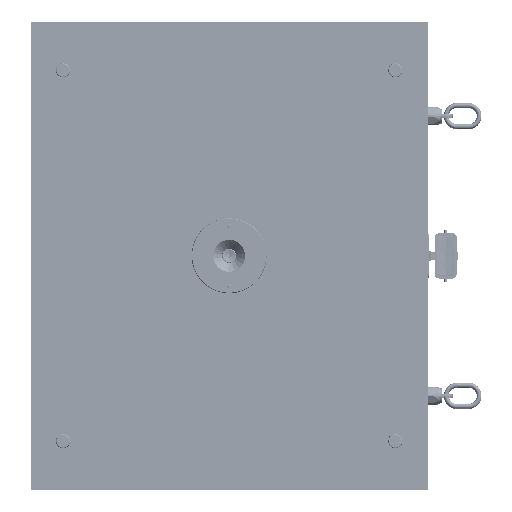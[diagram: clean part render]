
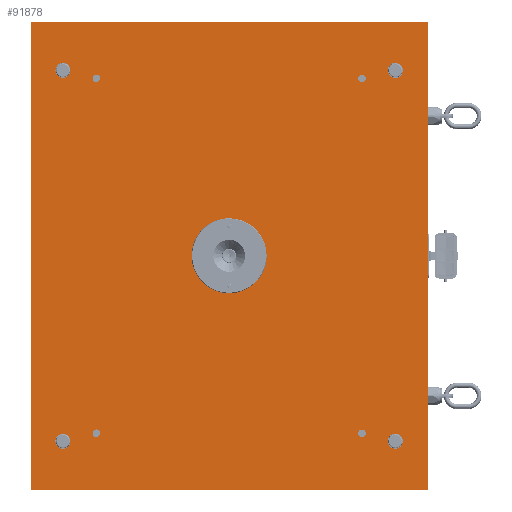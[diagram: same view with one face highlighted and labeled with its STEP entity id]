
A CAD part, top view. The second image highlights one B-rep face of the part: STEP entity #91878.
In plain terms, the highlighted planar face has unit normal (0, 0, 1).
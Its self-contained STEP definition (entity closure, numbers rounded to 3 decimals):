
#91652=CARTESIAN_POINT('Vertex',(354.,411.,7.)) ;
#91655=CARTESIAN_POINT('Axis2P3D Location',(354.,395.,7.)) ;
#91659=CARTESIAN_POINT('Vertex',(354.,379.,7.)) ;
#91679=CARTESIAN_POINT('Axis2P3D Location',(354.,395.,7.)) ;
#91691=CARTESIAN_POINT('Axis2P3D Location',(0.,0.,7.)) ;
#91696=CARTESIAN_POINT('Line Origine',(0.,498.,7.)) ;
#91700=CARTESIAN_POINT('Vertex',(423.,498.,7.)) ;
#91702=CARTESIAN_POINT('Vertex',(-423.,498.,7.)) ;
#91705=CARTESIAN_POINT('Line Origine',(-423.,0.,7.)) ;
#91709=CARTESIAN_POINT('Vertex',(-423.,-498.,7.)) ;
#91712=CARTESIAN_POINT('Line Origine',(0.,-498.,7.)) ;
#91716=CARTESIAN_POINT('Vertex',(423.,-498.,7.)) ;
#91719=CARTESIAN_POINT('Line Origine',(423.,0.,7.)) ;
#91730=CARTESIAN_POINT('Axis2P3D Location',(283.,-378.,7.)) ;
#91734=CARTESIAN_POINT('Vertex',(275.979,-374.165,7.)) ;
#91736=CARTESIAN_POINT('Vertex',(290.021,-381.835,7.)) ;
#91739=CARTESIAN_POINT('Axis2P3D Location',(283.,-378.,7.)) ;
#91748=CARTESIAN_POINT('Axis2P3D Location',(-283.,-378.,7.)) ;
#91752=CARTESIAN_POINT('Vertex',(-290.021,-374.165,7.)) ;
#91754=CARTESIAN_POINT('Vertex',(-275.979,-381.835,7.)) ;
#91757=CARTESIAN_POINT('Axis2P3D Location',(-283.,-378.,7.)) ;
#91766=CARTESIAN_POINT('Axis2P3D Location',(283.,378.,7.)) ;
#91770=CARTESIAN_POINT('Vertex',(275.979,381.835,7.)) ;
#91772=CARTESIAN_POINT('Vertex',(290.021,374.165,7.)) ;
#91775=CARTESIAN_POINT('Axis2P3D Location',(283.,378.,7.)) ;
#91784=CARTESIAN_POINT('Axis2P3D Location',(-283.,378.,7.)) ;
#91788=CARTESIAN_POINT('Vertex',(-290.021,381.835,7.)) ;
#91790=CARTESIAN_POINT('Vertex',(-275.979,374.165,7.)) ;
#91793=CARTESIAN_POINT('Axis2P3D Location',(-283.,378.,7.)) ;
#91802=CARTESIAN_POINT('Axis2P3D Location',(0.,0.,7.)) ;
#91806=CARTESIAN_POINT('Vertex',(0.,-80.,7.)) ;
#91808=CARTESIAN_POINT('Vertex',(0.,80.,7.)) ;
#91811=CARTESIAN_POINT('Axis2P3D Location',(0.,0.,7.)) ;
#91824=CARTESIAN_POINT('Axis2P3D Location',(-354.,395.,7.)) ;
#91828=CARTESIAN_POINT('Vertex',(-354.,379.,7.)) ;
#91830=CARTESIAN_POINT('Vertex',(-354.,411.,7.)) ;
#91833=CARTESIAN_POINT('Axis2P3D Location',(-354.,395.,7.)) ;
#91842=CARTESIAN_POINT('Axis2P3D Location',(-354.,-395.,7.)) ;
#91846=CARTESIAN_POINT('Vertex',(-354.,-411.,7.)) ;
#91848=CARTESIAN_POINT('Vertex',(-354.,-379.,7.)) ;
#91851=CARTESIAN_POINT('Axis2P3D Location',(-354.,-395.,7.)) ;
#91860=CARTESIAN_POINT('Axis2P3D Location',(354.,-395.,7.)) ;
#91864=CARTESIAN_POINT('Vertex',(354.,-411.,7.)) ;
#91866=CARTESIAN_POINT('Vertex',(354.,-379.,7.)) ;
#91869=CARTESIAN_POINT('Axis2P3D Location',(354.,-395.,7.)) ;
#91698=VECTOR('Line Direction',#91697,1.) ;
#91707=VECTOR('Line Direction',#91706,1.) ;
#91714=VECTOR('Line Direction',#91713,1.) ;
#91721=VECTOR('Line Direction',#91720,1.) ;
#91656=DIRECTION('Axis2P3D Direction',(0.,0.,1.)) ;
#91680=DIRECTION('Axis2P3D Direction',(0.,0.,1.)) ;
#91692=DIRECTION('Axis2P3D Direction',(0.,0.,1.)) ;
#91693=DIRECTION('Axis2P3D XDirection',(1.,0.,0.)) ;
#91697=DIRECTION('Vector Direction',(1.,0.,0.)) ;
#91706=DIRECTION('Vector Direction',(0.,1.,0.)) ;
#91713=DIRECTION('Vector Direction',(-1.,0.,0.)) ;
#91720=DIRECTION('Vector Direction',(0.,-1.,0.)) ;
#91731=DIRECTION('Axis2P3D Direction',(0.,0.,1.)) ;
#91740=DIRECTION('Axis2P3D Direction',(0.,0.,1.)) ;
#91749=DIRECTION('Axis2P3D Direction',(0.,0.,1.)) ;
#91758=DIRECTION('Axis2P3D Direction',(0.,0.,1.)) ;
#91767=DIRECTION('Axis2P3D Direction',(0.,0.,1.)) ;
#91776=DIRECTION('Axis2P3D Direction',(0.,0.,1.)) ;
#91785=DIRECTION('Axis2P3D Direction',(0.,0.,1.)) ;
#91794=DIRECTION('Axis2P3D Direction',(0.,0.,1.)) ;
#91803=DIRECTION('Axis2P3D Direction',(0.,0.,1.)) ;
#91812=DIRECTION('Axis2P3D Direction',(0.,0.,1.)) ;
#91825=DIRECTION('Axis2P3D Direction',(0.,0.,1.)) ;
#91834=DIRECTION('Axis2P3D Direction',(0.,0.,1.)) ;
#91843=DIRECTION('Axis2P3D Direction',(0.,0.,1.)) ;
#91852=DIRECTION('Axis2P3D Direction',(0.,0.,1.)) ;
#91861=DIRECTION('Axis2P3D Direction',(0.,0.,1.)) ;
#91870=DIRECTION('Axis2P3D Direction',(0.,0.,1.)) ;
#91657=AXIS2_PLACEMENT_3D('Circle Axis2P3D',#91655,#91656,$) ;
#91681=AXIS2_PLACEMENT_3D('Circle Axis2P3D',#91679,#91680,$) ;
#91694=AXIS2_PLACEMENT_3D('Plane Axis2P3D',#91691,#91692,#91693) ;
#91732=AXIS2_PLACEMENT_3D('Circle Axis2P3D',#91730,#91731,$) ;
#91741=AXIS2_PLACEMENT_3D('Circle Axis2P3D',#91739,#91740,$) ;
#91750=AXIS2_PLACEMENT_3D('Circle Axis2P3D',#91748,#91749,$) ;
#91759=AXIS2_PLACEMENT_3D('Circle Axis2P3D',#91757,#91758,$) ;
#91768=AXIS2_PLACEMENT_3D('Circle Axis2P3D',#91766,#91767,$) ;
#91777=AXIS2_PLACEMENT_3D('Circle Axis2P3D',#91775,#91776,$) ;
#91786=AXIS2_PLACEMENT_3D('Circle Axis2P3D',#91784,#91785,$) ;
#91795=AXIS2_PLACEMENT_3D('Circle Axis2P3D',#91793,#91794,$) ;
#91804=AXIS2_PLACEMENT_3D('Circle Axis2P3D',#91802,#91803,$) ;
#91813=AXIS2_PLACEMENT_3D('Circle Axis2P3D',#91811,#91812,$) ;
#91826=AXIS2_PLACEMENT_3D('Circle Axis2P3D',#91824,#91825,$) ;
#91835=AXIS2_PLACEMENT_3D('Circle Axis2P3D',#91833,#91834,$) ;
#91844=AXIS2_PLACEMENT_3D('Circle Axis2P3D',#91842,#91843,$) ;
#91853=AXIS2_PLACEMENT_3D('Circle Axis2P3D',#91851,#91852,$) ;
#91862=AXIS2_PLACEMENT_3D('Circle Axis2P3D',#91860,#91861,$) ;
#91871=AXIS2_PLACEMENT_3D('Circle Axis2P3D',#91869,#91870,$) ;
#91699=LINE('Line',#91696,#91698) ;
#91708=LINE('Line',#91705,#91707) ;
#91715=LINE('Line',#91712,#91714) ;
#91722=LINE('Line',#91719,#91721) ;
#91658=CIRCLE('generated circle',#91657,16.) ;
#91682=CIRCLE('generated circle',#91681,16.) ;
#91733=CIRCLE('generated circle',#91732,8.) ;
#91742=CIRCLE('generated circle',#91741,8.) ;
#91751=CIRCLE('generated circle',#91750,8.) ;
#91760=CIRCLE('generated circle',#91759,8.) ;
#91769=CIRCLE('generated circle',#91768,8.) ;
#91778=CIRCLE('generated circle',#91777,8.) ;
#91787=CIRCLE('generated circle',#91786,8.) ;
#91796=CIRCLE('generated circle',#91795,8.) ;
#91805=CIRCLE('generated circle',#91804,80.) ;
#91814=CIRCLE('generated circle',#91813,80.) ;
#91827=CIRCLE('generated circle',#91826,16.) ;
#91836=CIRCLE('generated circle',#91835,16.) ;
#91845=CIRCLE('generated circle',#91844,16.) ;
#91854=CIRCLE('generated circle',#91853,16.) ;
#91863=CIRCLE('generated circle',#91862,16.) ;
#91872=CIRCLE('generated circle',#91871,16.) ;
#91695=PLANE('',#91694) ;
#91747=FACE_BOUND('',#91744,.T.) ;
#91765=FACE_BOUND('',#91762,.T.) ;
#91783=FACE_BOUND('',#91780,.T.) ;
#91801=FACE_BOUND('',#91798,.T.) ;
#91819=FACE_BOUND('',#91816,.T.) ;
#91823=FACE_BOUND('',#91820,.T.) ;
#91841=FACE_BOUND('',#91838,.T.) ;
#91859=FACE_BOUND('',#91856,.T.) ;
#91877=FACE_BOUND('',#91874,.T.) ;
#91661=EDGE_CURVE('',#91653,#91660,#91658,.T.) ;
#91683=EDGE_CURVE('',#91660,#91653,#91682,.T.) ;
#91704=EDGE_CURVE('',#91701,#91703,#91699,.F.) ;
#91711=EDGE_CURVE('',#91703,#91710,#91708,.F.) ;
#91718=EDGE_CURVE('',#91710,#91717,#91715,.F.) ;
#91723=EDGE_CURVE('',#91717,#91701,#91722,.F.) ;
#91738=EDGE_CURVE('',#91735,#91737,#91733,.T.) ;
#91743=EDGE_CURVE('',#91737,#91735,#91742,.T.) ;
#91756=EDGE_CURVE('',#91753,#91755,#91751,.T.) ;
#91761=EDGE_CURVE('',#91755,#91753,#91760,.T.) ;
#91774=EDGE_CURVE('',#91771,#91773,#91769,.T.) ;
#91779=EDGE_CURVE('',#91773,#91771,#91778,.T.) ;
#91792=EDGE_CURVE('',#91789,#91791,#91787,.T.) ;
#91797=EDGE_CURVE('',#91791,#91789,#91796,.T.) ;
#91810=EDGE_CURVE('',#91807,#91809,#91805,.T.) ;
#91815=EDGE_CURVE('',#91809,#91807,#91814,.T.) ;
#91832=EDGE_CURVE('',#91829,#91831,#91827,.T.) ;
#91837=EDGE_CURVE('',#91831,#91829,#91836,.T.) ;
#91850=EDGE_CURVE('',#91847,#91849,#91845,.T.) ;
#91855=EDGE_CURVE('',#91849,#91847,#91854,.T.) ;
#91868=EDGE_CURVE('',#91865,#91867,#91863,.T.) ;
#91873=EDGE_CURVE('',#91867,#91865,#91872,.T.) ;
#91725=ORIENTED_EDGE('',*,*,#91704,.T.) ;
#91726=ORIENTED_EDGE('',*,*,#91711,.T.) ;
#91727=ORIENTED_EDGE('',*,*,#91718,.T.) ;
#91728=ORIENTED_EDGE('',*,*,#91723,.T.) ;
#91745=ORIENTED_EDGE('',*,*,#91738,.F.) ;
#91746=ORIENTED_EDGE('',*,*,#91743,.F.) ;
#91763=ORIENTED_EDGE('',*,*,#91756,.F.) ;
#91764=ORIENTED_EDGE('',*,*,#91761,.F.) ;
#91781=ORIENTED_EDGE('',*,*,#91774,.F.) ;
#91782=ORIENTED_EDGE('',*,*,#91779,.F.) ;
#91799=ORIENTED_EDGE('',*,*,#91792,.F.) ;
#91800=ORIENTED_EDGE('',*,*,#91797,.F.) ;
#91817=ORIENTED_EDGE('',*,*,#91810,.F.) ;
#91818=ORIENTED_EDGE('',*,*,#91815,.F.) ;
#91821=ORIENTED_EDGE('',*,*,#91683,.F.) ;
#91822=ORIENTED_EDGE('',*,*,#91661,.F.) ;
#91839=ORIENTED_EDGE('',*,*,#91832,.F.) ;
#91840=ORIENTED_EDGE('',*,*,#91837,.F.) ;
#91857=ORIENTED_EDGE('',*,*,#91850,.F.) ;
#91858=ORIENTED_EDGE('',*,*,#91855,.F.) ;
#91875=ORIENTED_EDGE('',*,*,#91868,.F.) ;
#91876=ORIENTED_EDGE('',*,*,#91873,.F.) ;
#91724=EDGE_LOOP('',(#91725,#91726,#91727,#91728)) ;
#91744=EDGE_LOOP('',(#91745,#91746)) ;
#91762=EDGE_LOOP('',(#91763,#91764)) ;
#91780=EDGE_LOOP('',(#91781,#91782)) ;
#91798=EDGE_LOOP('',(#91799,#91800)) ;
#91816=EDGE_LOOP('',(#91817,#91818)) ;
#91820=EDGE_LOOP('',(#91821,#91822)) ;
#91838=EDGE_LOOP('',(#91839,#91840)) ;
#91856=EDGE_LOOP('',(#91857,#91858)) ;
#91874=EDGE_LOOP('',(#91875,#91876)) ;
#91653=VERTEX_POINT('',#91652) ;
#91660=VERTEX_POINT('',#91659) ;
#91701=VERTEX_POINT('',#91700) ;
#91703=VERTEX_POINT('',#91702) ;
#91710=VERTEX_POINT('',#91709) ;
#91717=VERTEX_POINT('',#91716) ;
#91735=VERTEX_POINT('',#91734) ;
#91737=VERTEX_POINT('',#91736) ;
#91753=VERTEX_POINT('',#91752) ;
#91755=VERTEX_POINT('',#91754) ;
#91771=VERTEX_POINT('',#91770) ;
#91773=VERTEX_POINT('',#91772) ;
#91789=VERTEX_POINT('',#91788) ;
#91791=VERTEX_POINT('',#91790) ;
#91807=VERTEX_POINT('',#91806) ;
#91809=VERTEX_POINT('',#91808) ;
#91829=VERTEX_POINT('',#91828) ;
#91831=VERTEX_POINT('',#91830) ;
#91847=VERTEX_POINT('',#91846) ;
#91849=VERTEX_POINT('',#91848) ;
#91865=VERTEX_POINT('',#91864) ;
#91867=VERTEX_POINT('',#91866) ;
#91878=ADVANCED_FACE('PartBody',(#91729,#91747,#91765,#91783,#91801,#91819,#91823,#91841,#91859,#91877),#91695,.T.) ;
#91729=FACE_OUTER_BOUND('',#91724,.T.) ;
